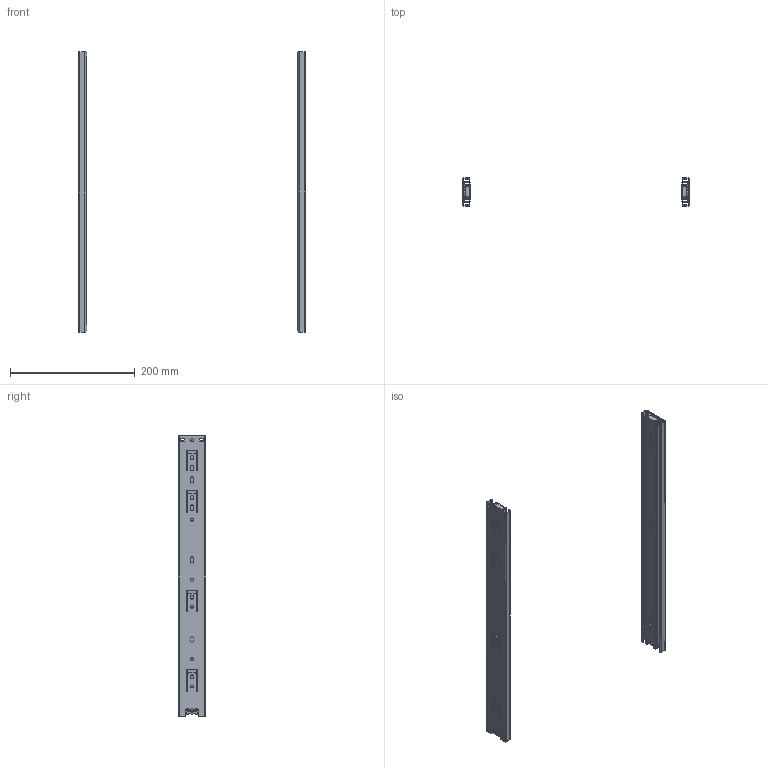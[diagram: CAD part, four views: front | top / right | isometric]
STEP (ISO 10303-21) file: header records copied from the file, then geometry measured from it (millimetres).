
FILE_DESCRIPTION(/* description */ (''),/* implementation_level */ '2;1');
FILE_NAME(/* name */ 'D:\$Workingspace\Designs\Katalog\Cadsoft\GTV Prowadnice\Prowadnice GTV_bryły 3D\PK-0-H45-450.stp',/* time_stamp */ '2016-11-22T11:27:03+01:00',/* author */ ('tomaszw'),/* organization */ (''),/* preprocessor_version */ 'ST-DEVELOPER v16.1',/* originating_system */ 'Autodesk Inventor 2016',/* authorisation */ '');
FILE_SCHEMA (('AUTOMOTIVE_DESIGN { 1 0 10303 214 3 1 1 }'));
Length unit declared in the file: millimetre
Products named in the file (5): Blokada_4; PK-0-H45_1-450; PK-0-H45_2-450; PK-0-H45_3-450; PK-0-H45
Assembly tree (8 placements, depth 2):
  PK-0-H45
    Blokada_4  x2
    PK-0-H45_1-450  x2
    PK-0-H45_2-450  x2
    PK-0-H45_3-450  x2
Bounding box: 364 x 44.5 x 450 mm (x, y, z)
Volume: 143030.1 mm3; surface area: 280189.7 mm2
Topology: 8 solids, 8 shells, 498 faces, 1438 edges, 956 vertices
Faces by surface type: cylinder 258, plane 236, cone 4
Full cylindrical faces by diameter (mm): 4.5 x12, 5 x6, 6.4 x8
Entity records: 8707 total; most frequent: DIRECTION 1478, CARTESIAN_POINT 1472, ORIENTED_EDGE 1412, EDGE_CURVE 706, AXIS2_PLACEMENT_3D 518, VERTEX_POINT 478, LINE 442, VECTOR 442
